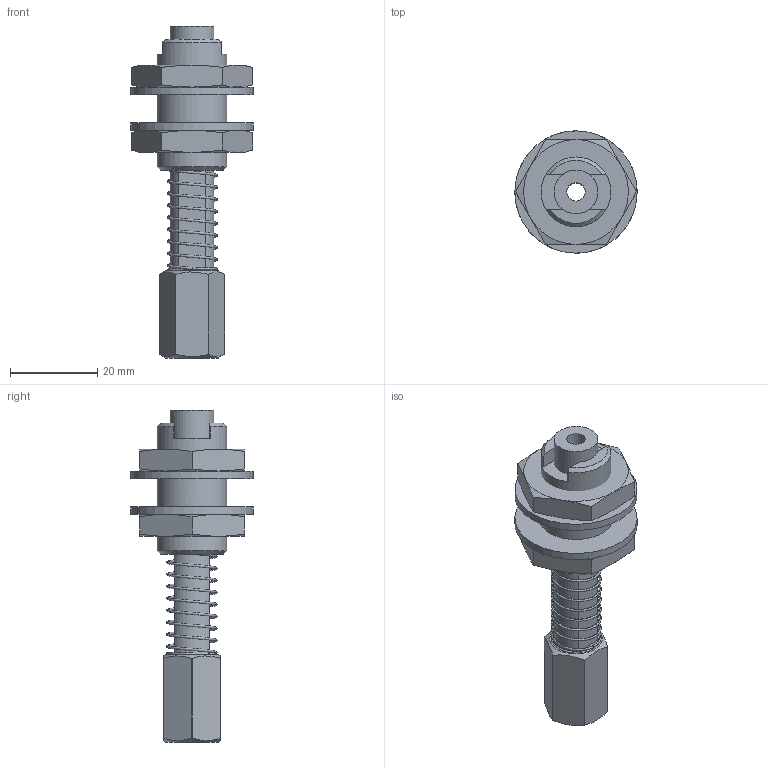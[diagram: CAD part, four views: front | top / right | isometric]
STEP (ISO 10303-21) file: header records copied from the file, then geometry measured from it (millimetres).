
FILE_DESCRIPTION(('STEP AP214'),'1');
FILE_NAME('CA.05.01.010.stp','2018-07-16T06:55:10',(' '),(' '),'Spatial InterOp 3D',' ',' ');
FILE_SCHEMA(('AUTOMOTIVE_DESIGN { 1 0 10303 214 1 1 1 1 }'));
Length unit declared in the file: millimetre
Products named in the file (7): CA.05.01.010; R.16.SCH; 05.01.007.06; M.12x50; 05.01.001.01; 05.01.001.03; 05.01.001.07
Assembly tree (8 placements, depth 2):
  CA.05.01.010
    R.16.SCH  x2
    05.01.007.06  x2
    M.12x50
    05.01.001.01
    05.01.001.03
    05.01.001.07
Bounding box: 28 x 28 x 76 mm (x, y, z)
Volume: 13374.6 mm3; surface area: 12414.9 mm2
Topology: 8 solids, 8 shells, 112 faces, 255 edges, 159 vertices
Faces by surface type: plane 48, cone 32, cylinder 26, bspline 6
Full cylindrical faces by diameter (mm): 4.2 x2, 6.2 x1, 6.5 x1, 7 x1, 9.5 x2, 10 x2, 14 x2, 16 x1, 17 x2, 28 x2
Entity records: 8299 total; most frequent: CARTESIAN_POINT 5648, DIRECTION 366, ORIENTED_EDGE 354, EDGE_CURVE 177, AXIS2_PLACEMENT_3D 159, VERTEX_POINT 121, EDGE_LOOP 116, FACE_OUTER_BOUND 100
